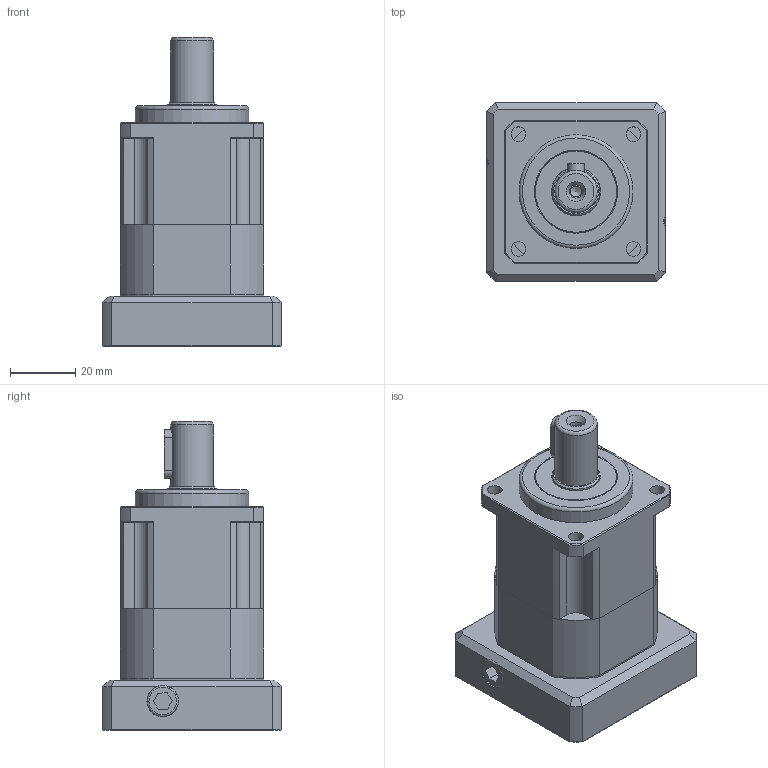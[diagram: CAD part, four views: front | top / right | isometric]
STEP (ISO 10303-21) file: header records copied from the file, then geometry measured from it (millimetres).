
FILE_DESCRIPTION((''),'2;1');
FILE_NAME('D:\WORK\감속기 도면\조립도(서보규격별)\KSB_PGX-H\KSB-44 (PGX44-H)\KSB-44-1(40-63-M5-S9) 특주.stp','2019-04-25T16:03:11',('Young'),(''),'Autodesk Inventor 2012','Autodesk Inventor 2012','');
FILE_SCHEMA(('AUTOMOTIVE_DESIGN { 1 0 10303 214 1 1 1 1 }'));
Length unit declared in the file: millimetre
Products named in the file (5): 조립품4; PGX44-H-1(S11); 44-BK(40-63-M5); BS 4168 : 부품 1 6각 소켓 머리 캡 나사 - 미터 M4 x 10; Bush(11-9)
Assembly tree (7 placements, depth 2):
  조립품4
    PGX44-H-1(S11)
    44-BK(40-63-M5)
    BS 4168 : 부품 1 6각 소켓 머리 캡 나사 - 미터 M4 x 10  x4
    Bush(11-9)
Bounding box: 55 x 55 x 95 mm (x, y, z)
Volume: 118353.5 mm3; surface area: 44257.4 mm2
Topology: 17 solids, 17 shells, 459 faces, 1140 edges, 739 vertices
Faces by surface type: plane 232, cylinder 134, cone 70, torus 14, bspline 9
Full cylindrical faces by diameter (mm): 2.5 x4, 3.242 x1, 3.3 x5, 4 x6, 4.2 x8, 4.5 x9, 6 x4, 7 x5, 9.5 x2, 11 x1, 13 x1, 14.2 x1, 14.8 x2, 15 x3, 25 x4, 27 x1, 28 x1, 30 x1, 32 x2, 35 x1
Entity records: 12778 total; most frequent: CARTESIAN_POINT 3116, DIRECTION 1965, ORIENTED_EDGE 1844, EDGE_CURVE 922, AXIS2_PLACEMENT_3D 751, VERTEX_POINT 649, EDGE_LOOP 567, VECTOR 463
